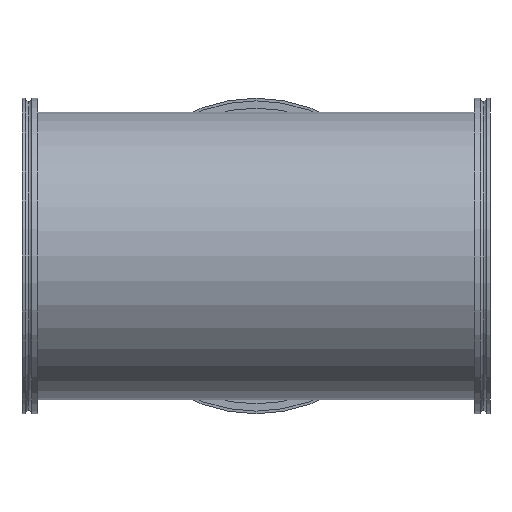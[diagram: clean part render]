
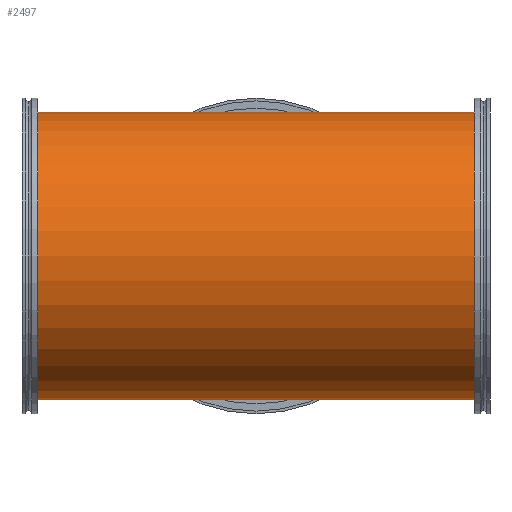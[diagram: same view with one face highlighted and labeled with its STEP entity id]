
A CAD part, left-side view. The second image highlights one B-rep face of the part: STEP entity #2497.
In plain terms, the highlighted cylindrical face has radius 109.5 mm (diameter 219 mm), a partial arc.
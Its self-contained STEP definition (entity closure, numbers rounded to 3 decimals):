
#10 = CIRCLE ( 'NONE', #1443, 109.5 ) ;
#24 = EDGE_CURVE ( 'NONE', #1578, #332, #10, .T. ) ;
#27 = ORIENTED_EDGE ( 'NONE', *, *, #24, .F. ) ;
#110 = DIRECTION ( 'NONE',  ( 0., 1., 0. ) ) ;
#115 = DIRECTION ( 'NONE',  ( 0., 1., 0. ) ) ;
#137 = EDGE_CURVE ( 'NONE', #993, #2437, #1087, .T. ) ;
#228 = ORIENTED_EDGE ( 'NONE', *, *, #434, .T. ) ;
#292 = DIRECTION ( 'NONE',  ( 0., 1., 0. ) ) ;
#332 = VERTEX_POINT ( 'NONE', #1094 ) ;
#364 = CARTESIAN_POINT ( 'NONE',  ( 0., 178., -109.5 ) ) ;
#418 = CIRCLE ( 'NONE', #1121, 109.5 ) ;
#434 = EDGE_CURVE ( 'NONE', #908, #2437, #418, .T. ) ;
#446 = CARTESIAN_POINT ( 'NONE',  ( 0., 178., 109.5 ) ) ;
#488 = CARTESIAN_POINT ( 'NONE',  ( 0., 348., 109.5 ) ) ;
#497 = LINE ( 'NONE', #2257, #1253 ) ;
#756 = CARTESIAN_POINT ( 'NONE',  ( 0., -0.002, 0. ) ) ;
#834 = VECTOR ( 'NONE', #115, 1000. ) ;
#865 = ORIENTED_EDGE ( 'NONE', *, *, #137, .F. ) ;
#881 = VECTOR ( 'NONE', #110, 1000. ) ;
#908 = VERTEX_POINT ( 'NONE', #488 ) ;
#925 = AXIS2_PLACEMENT_3D ( 'NONE', #756, #1744, #1896 ) ;
#993 = VERTEX_POINT ( 'NONE', #364 ) ;
#1032 = DIRECTION ( 'NONE',  ( 0., 0., -1. ) ) ;
#1075 = CARTESIAN_POINT ( 'NONE',  ( 0., 348., -109.5 ) ) ;
#1087 = LINE ( 'NONE', #1825, #881 ) ;
#1094 = CARTESIAN_POINT ( 'NONE',  ( 0., 8., -109.5 ) ) ;
#1121 = AXIS2_PLACEMENT_3D ( 'NONE', #1389, #1777, #1592 ) ;
#1164 = VECTOR ( 'NONE', #1438, 1000. ) ;
#1223 = EDGE_CURVE ( 'NONE', #332, #993, #497, .T. ) ;
#1253 = VECTOR ( 'NONE', #292, 1000. ) ;
#1288 = ORIENTED_EDGE ( 'NONE', *, *, #1223, .F. ) ;
#1302 = EDGE_CURVE ( 'NONE', #1578, #1906, #1629, .T. ) ;
#1389 = CARTESIAN_POINT ( 'NONE',  ( 0., 348., 0. ) ) ;
#1438 = DIRECTION ( 'NONE',  ( 0., 1., 0. ) ) ;
#1443 = AXIS2_PLACEMENT_3D ( 'NONE', #2224, #2416, #1032 ) ;
#1466 = LINE ( 'NONE', #1493, #1164 ) ;
#1493 = CARTESIAN_POINT ( 'NONE',  ( 0., -0.002, 109.5 ) ) ;
#1578 = VERTEX_POINT ( 'NONE', #1788 ) ;
#1592 = DIRECTION ( 'NONE',  ( 0., 0., -1. ) ) ;
#1629 = LINE ( 'NONE', #2040, #834 ) ;
#1726 = CYLINDRICAL_SURFACE ( 'NONE', #925, 109.5 ) ;
#1744 = DIRECTION ( 'NONE',  ( 0., 1., 0. ) ) ;
#1777 = DIRECTION ( 'NONE',  ( 0., -1., 0. ) ) ;
#1779 = ORIENTED_EDGE ( 'NONE', *, *, #1302, .T. ) ;
#1788 = CARTESIAN_POINT ( 'NONE',  ( 0., 8., 109.5 ) ) ;
#1825 = CARTESIAN_POINT ( 'NONE',  ( 0., -0.002, -109.5 ) ) ;
#1896 = DIRECTION ( 'NONE',  ( 0., 0., 1. ) ) ;
#1906 = VERTEX_POINT ( 'NONE', #446 ) ;
#2040 = CARTESIAN_POINT ( 'NONE',  ( 0., -0.002, 109.5 ) ) ;
#2123 = ORIENTED_EDGE ( 'NONE', *, *, #2406, .T. ) ;
#2224 = CARTESIAN_POINT ( 'NONE',  ( 0., 8., 0. ) ) ;
#2257 = CARTESIAN_POINT ( 'NONE',  ( 0., -0.002, -109.5 ) ) ;
#2292 = EDGE_LOOP ( 'NONE', ( #1288, #27, #1779, #2123, #228, #865 ) ) ;
#2406 = EDGE_CURVE ( 'NONE', #1906, #908, #1466, .T. ) ;
#2416 = DIRECTION ( 'NONE',  ( 0., -1., 0. ) ) ;
#2437 = VERTEX_POINT ( 'NONE', #1075 ) ;
#2447 = FACE_OUTER_BOUND ( 'NONE', #2292, .T. ) ;
#2497 = ADVANCED_FACE ( 'NONE', ( #2447 ), #1726, .T. ) ;
